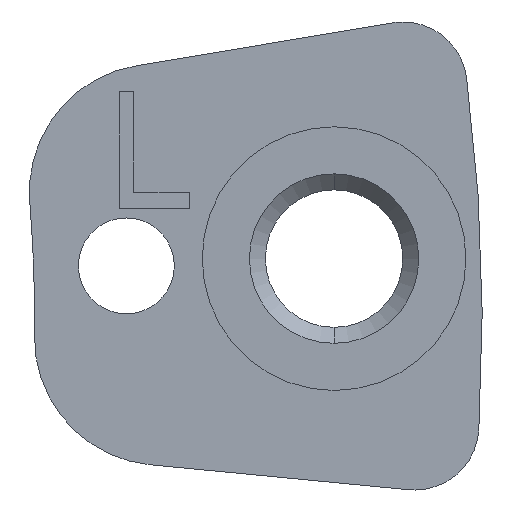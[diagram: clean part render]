
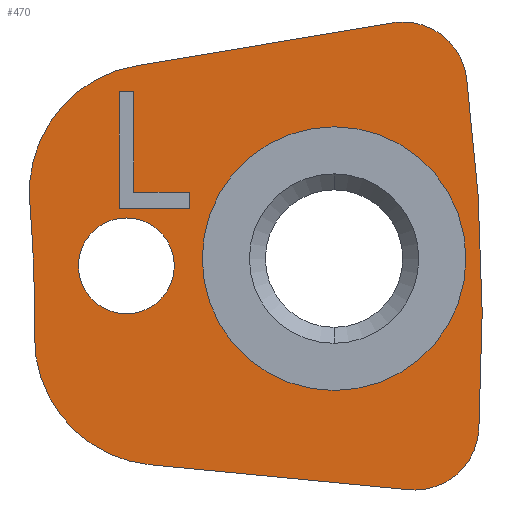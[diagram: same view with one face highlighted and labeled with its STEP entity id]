
A CAD part, left-side view. The second image highlights one B-rep face of the part: STEP entity #470.
In plain terms, the highlighted planar face has unit normal (-1, 0, 0).
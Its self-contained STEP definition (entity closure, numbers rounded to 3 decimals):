
#1=CARTESIAN_POINT('',(55.,0.,-64.));
#2=DIRECTION('',(-1.,0.,0.));
#3=DIRECTION('',(0.,-1.,-0.013));
#4=AXIS2_PLACEMENT_3D('',#1,#2,#3);
#6=CARTESIAN_POINT('',(55.,-47.837,-60.05));
#7=DIRECTION('',(1.,0.,0.));
#8=DIRECTION('',(0.,0.997,-0.082));
#9=AXIS2_PLACEMENT_3D('',#6,#7,#8);
#11=DIRECTION('',(0.,-0.986,0.165));
#12=VECTOR('',#11,8.131);
#13=CARTESIAN_POINT('',(55.,-47.177,-56.105));
#14=LINE('',#13,#12);
#15=CARTESIAN_POINT('',(55.,-55.527,-56.736));
#16=DIRECTION('',(1.,0.,0.));
#17=DIRECTION('',(0.,0.165,0.986));
#18=AXIS2_PLACEMENT_3D('',#15,#16,#17);
#20=CARTESIAN_POINT('',(55.,-55.527,-56.736));
#21=DIRECTION('',(1.,0.,0.));
#22=DIRECTION('',(0.,0.,1.));
#23=AXIS2_PLACEMENT_3D('',#20,#21,#22);
#25=CARTESIAN_POINT('',(55.,0.,-64.));
#26=DIRECTION('',(1.,0.,0.));
#27=DIRECTION('',(0.,-0.992,0.13));
#28=AXIS2_PLACEMENT_3D('',#25,#26,#27);
#30=CARTESIAN_POINT('',(55.,-55.898,-67.373));
#31=DIRECTION('',(1.,0.,0.));
#32=DIRECTION('',(0.,-0.998,-0.06));
#33=AXIS2_PLACEMENT_3D('',#30,#31,#32);
#35=CARTESIAN_POINT('',(55.,-55.898,-67.373));
#36=DIRECTION('',(1.,0.,0.));
#37=DIRECTION('',(0.,0.,-1.));
#38=AXIS2_PLACEMENT_3D('',#35,#36,#37);
#40=DIRECTION('',(0.,0.995,0.096));
#41=VECTOR('',#40,8.131);
#42=CARTESIAN_POINT('',(55.,-55.707,-69.364));
#43=LINE('',#42,#41);
#44=CARTESIAN_POINT('',(55.,-47.996,-64.603));
#45=DIRECTION('',(1.,0.,0.));
#46=DIRECTION('',(0.,0.096,-0.995));
#47=AXIS2_PLACEMENT_3D('',#44,#45,#46);
#49=CARTESIAN_POINT('',(55.,-53.367,-62.136));
#50=DIRECTION('',(-1.,0.,0.));
#51=DIRECTION('',(0.,0.,1.));
#52=AXIS2_PLACEMENT_3D('',#49,#50,#51);
#54=CARTESIAN_POINT('',(55.,-53.367,-62.136));
#55=DIRECTION('',(-1.,0.,0.));
#56=DIRECTION('',(0.,0.,-1.));
#57=AXIS2_PLACEMENT_3D('',#54,#55,#56);
#59=CARTESIAN_POINT('',(55.,-46.871,-62.363));
#60=DIRECTION('',(-1.,0.,0.));
#61=DIRECTION('',(0.,0.,1.));
#62=AXIS2_PLACEMENT_3D('',#59,#60,#61);
#64=CARTESIAN_POINT('',(55.,-46.871,-62.363));
#65=DIRECTION('',(-1.,0.,0.));
#66=DIRECTION('',(0.,0.,-1.));
#67=AXIS2_PLACEMENT_3D('',#64,#65,#66);
#69=DIRECTION('',(0.,0.,-1.));
#70=VECTOR('',#69,3.65);
#71=CARTESIAN_POINT('',(55.,-46.646,-56.917));
#72=LINE('',#71,#70);
#73=DIRECTION('',(0.,-1.,0.));
#74=VECTOR('',#73,2.2);
#75=CARTESIAN_POINT('',(55.,-46.646,-60.567));
#76=LINE('',#75,#74);
#77=DIRECTION('',(0.,0.,1.));
#78=VECTOR('',#77,0.511);
#79=CARTESIAN_POINT('',(55.,-48.846,-60.567));
#80=LINE('',#79,#78);
#81=DIRECTION('',(0.,1.,0.));
#82=VECTOR('',#81,1.75);
#83=CARTESIAN_POINT('',(55.,-48.846,-60.056));
#84=LINE('',#83,#82);
#85=DIRECTION('',(0.,0.,1.));
#86=VECTOR('',#85,3.139);
#87=CARTESIAN_POINT('',(55.,-47.096,-60.056));
#88=LINE('',#87,#86);
#89=DIRECTION('',(0.,1.,0.));
#90=VECTOR('',#89,0.45);
#91=CARTESIAN_POINT('',(55.,-47.096,-56.917));
#92=LINE('',#91,#90);
#321=CARTESIAN_POINT('',(55.,-43.997,-64.553));
#322=CARTESIAN_POINT('',(55.,-43.851,-60.38));
#323=VERTEX_POINT('',#321);
#324=VERTEX_POINT('',#322);
#325=CARTESIAN_POINT('',(55.,-47.177,-56.105));
#326=VERTEX_POINT('',#325);
#327=CARTESIAN_POINT('',(55.,-55.197,-54.763));
#328=VERTEX_POINT('',#327);
#329=CARTESIAN_POINT('',(55.,-55.527,-54.736));
#330=VERTEX_POINT('',#329);
#331=CARTESIAN_POINT('',(55.,-57.51,-56.476));
#332=VERTEX_POINT('',#331);
#333=CARTESIAN_POINT('',(55.,-57.895,-67.494));
#334=VERTEX_POINT('',#333);
#335=CARTESIAN_POINT('',(55.,-55.898,-69.373));
#336=CARTESIAN_POINT('',(55.,-55.707,-69.364));
#337=VERTEX_POINT('',#335);
#338=VERTEX_POINT('',#336);
#339=CARTESIAN_POINT('',(55.,-47.613,-68.585));
#340=VERTEX_POINT('',#339);
#341=CARTESIAN_POINT('',(55.,-53.367,-58.011));
#342=CARTESIAN_POINT('',(55.,-53.367,-66.261));
#343=VERTEX_POINT('',#341);
#344=VERTEX_POINT('',#342);
#345=CARTESIAN_POINT('',(55.,-46.871,-60.863));
#346=CARTESIAN_POINT('',(55.,-46.871,-63.863));
#347=VERTEX_POINT('',#345);
#348=VERTEX_POINT('',#346);
#377=CARTESIAN_POINT('',(55.,-46.646,-60.567));
#379=VERTEX_POINT('',#377);
#381=CARTESIAN_POINT('',(55.,-47.096,-60.056));
#383=VERTEX_POINT('',#381);
#405=CARTESIAN_POINT('',(55.,-48.846,-60.567));
#406=VERTEX_POINT('',#405);
#407=CARTESIAN_POINT('',(55.,-48.846,-60.056));
#408=VERTEX_POINT('',#407);
#413=CARTESIAN_POINT('',(55.,-46.646,-56.917));
#414=VERTEX_POINT('',#413);
#415=CARTESIAN_POINT('',(55.,-47.096,-56.917));
#416=VERTEX_POINT('',#415);
#417=CARTESIAN_POINT('',(55.,0.,-64.));
#418=DIRECTION('',(1.,0.,0.));
#419=DIRECTION('',(0.,1.,0.));
#420=AXIS2_PLACEMENT_3D('',#417,#418,#419);
#421=PLANE('',#420);
#423=ORIENTED_EDGE('',*,*,#422,.T.);
#425=ORIENTED_EDGE('',*,*,#424,.T.);
#427=ORIENTED_EDGE('',*,*,#426,.T.);
#429=ORIENTED_EDGE('',*,*,#428,.T.);
#431=ORIENTED_EDGE('',*,*,#430,.T.);
#433=ORIENTED_EDGE('',*,*,#432,.T.);
#435=ORIENTED_EDGE('',*,*,#434,.T.);
#437=ORIENTED_EDGE('',*,*,#436,.T.);
#439=ORIENTED_EDGE('',*,*,#438,.T.);
#441=ORIENTED_EDGE('',*,*,#440,.T.);
#442=EDGE_LOOP('',(#423,#425,#427,#429,#431,#433,#435,#437,#439,#441));
#443=FACE_OUTER_BOUND('',#442,.F.);
#445=ORIENTED_EDGE('',*,*,#444,.T.);
#447=ORIENTED_EDGE('',*,*,#446,.T.);
#448=EDGE_LOOP('',(#445,#447));
#449=FACE_BOUND('',#448,.F.);
#451=ORIENTED_EDGE('',*,*,#450,.T.);
#453=ORIENTED_EDGE('',*,*,#452,.T.);
#454=EDGE_LOOP('',(#451,#453));
#455=FACE_BOUND('',#454,.F.);
#457=ORIENTED_EDGE('',*,*,#456,.T.);
#459=ORIENTED_EDGE('',*,*,#458,.T.);
#461=ORIENTED_EDGE('',*,*,#460,.T.);
#463=ORIENTED_EDGE('',*,*,#462,.T.);
#465=ORIENTED_EDGE('',*,*,#464,.T.);
#467=ORIENTED_EDGE('',*,*,#466,.T.);
#468=EDGE_LOOP('',(#457,#459,#461,#463,#465,#467));
#469=FACE_BOUND('',#468,.F.);
#470=ADVANCED_FACE('',(#443,#449,#455,#469),#421,.F.);
#5=CIRCLE('',#4,44.);
#10=CIRCLE('',#9,4.);
#19=CIRCLE('',#18,2.);
#24=CIRCLE('',#23,2.);
#29=CIRCLE('',#28,58.);
#34=CIRCLE('',#33,2.);
#39=CIRCLE('',#38,2.);
#48=CIRCLE('',#47,4.);
#53=CIRCLE('',#52,4.125);
#58=CIRCLE('',#57,4.125);
#63=CIRCLE('',#62,1.5);
#68=CIRCLE('',#67,1.5);
#422=EDGE_CURVE('',#323,#324,#5,.T.);
#424=EDGE_CURVE('',#324,#326,#10,.T.);
#426=EDGE_CURVE('',#326,#328,#14,.T.);
#428=EDGE_CURVE('',#328,#330,#19,.T.);
#430=EDGE_CURVE('',#330,#332,#24,.T.);
#432=EDGE_CURVE('',#332,#334,#29,.T.);
#434=EDGE_CURVE('',#334,#337,#34,.T.);
#436=EDGE_CURVE('',#337,#338,#39,.T.);
#438=EDGE_CURVE('',#338,#340,#43,.T.);
#440=EDGE_CURVE('',#340,#323,#48,.T.);
#444=EDGE_CURVE('',#343,#344,#53,.T.);
#446=EDGE_CURVE('',#344,#343,#58,.T.);
#450=EDGE_CURVE('',#347,#348,#63,.T.);
#452=EDGE_CURVE('',#348,#347,#68,.T.);
#456=EDGE_CURVE('',#414,#379,#72,.T.);
#458=EDGE_CURVE('',#379,#406,#76,.T.);
#460=EDGE_CURVE('',#406,#408,#80,.T.);
#462=EDGE_CURVE('',#408,#383,#84,.T.);
#464=EDGE_CURVE('',#383,#416,#88,.T.);
#466=EDGE_CURVE('',#416,#414,#92,.T.);
